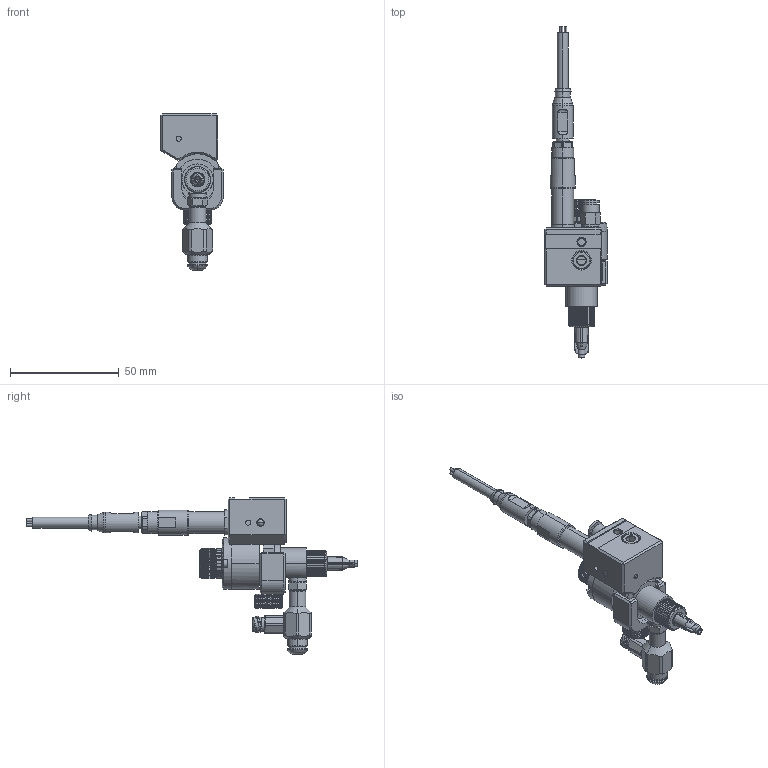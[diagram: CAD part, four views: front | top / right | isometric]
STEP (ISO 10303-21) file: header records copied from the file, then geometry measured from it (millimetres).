
FILE_DESCRIPTION (( 'STEP AP214' ), '1' );
FILE_NAME ('NORDSONEFD-7362489 VALVE XQR41V STR CTRL BP.STEP', '2018-12-21T00:56:33', ( '' ), ( '' ), 'SwSTEP 2.0', 'SolidWorks 2018', '' );
FILE_SCHEMA (( 'AUTOMOTIVE_DESIGN' ));
Length unit declared in the file: inch
Products named in the file (1): NORDSONEFD-7362489  VALVE XQR41V STR CTRL BP
Bounding box: 28.7 x 152.44 x 71.73 mm (x, y, z)
Surface area: 16658.7 mm2 (no closed solid volume)
Topology: 0 solids, 46 shells, 1828 faces, 5542 edges, 3536 vertices
Faces by surface type: bspline 725, plane 476, cylinder 424, cone 173, torus 26, sphere 4
Entity records: 71815 total; most frequent: CARTESIAN_POINT 32104, ORIENTED_EDGE 9102, DIRECTION 5634, EDGE_CURVE 5526, VERTEX_POINT 3530, AXIS2_PLACEMENT_3D 2085, EDGE_LOOP 1923, FACE_OUTER_BOUND 1828
